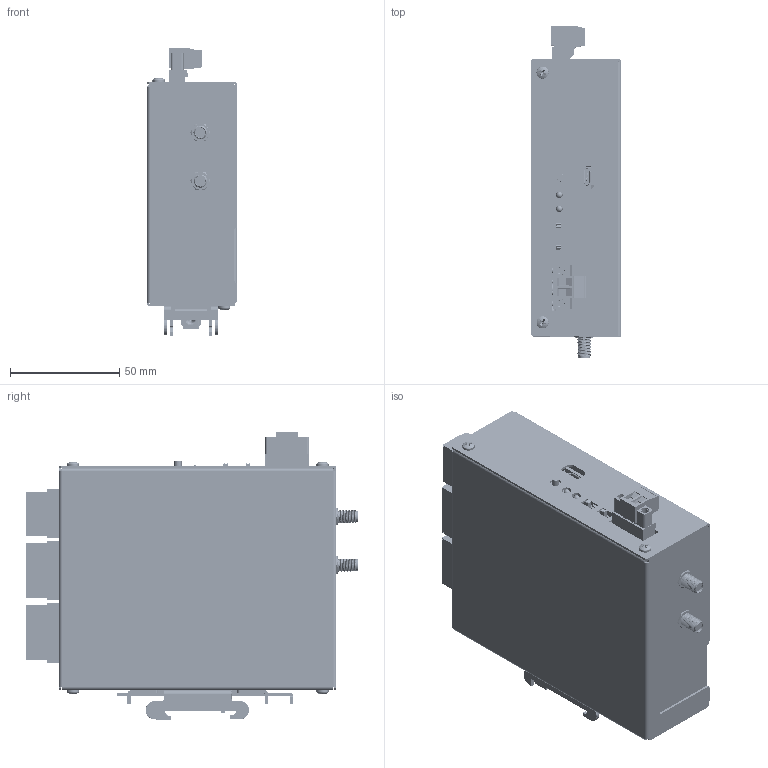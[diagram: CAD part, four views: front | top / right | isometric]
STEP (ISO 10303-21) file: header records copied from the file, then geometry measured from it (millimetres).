
FILE_DESCRIPTION (( 'STEP AP214' ), '1' );
FILE_NAME ('965-0045-01.STEP', '2022-04-29T19:35:41', ( '' ), ( '' ), 'SwSTEP 2.0', 'SolidWorks 2022', '' );
FILE_SCHEMA (( 'AUTOMOTIVE_DESIGN' ));
Length unit declared in the file: inch
Products named in the file (16): dinm23; 515-0164-01 Sensor to Cloud; 110-0112-01; 515-0174-01 DIN Mount for Ranger PCB; CR-PHMS 0.112-40x0.25x0.25-N_CR-PHMS 0.112-40x0.25x0.25-N; 395300004.stp; CLS-440-0-PennEngineering-3D-11-23-2020; 110-0112-01B; 110-0113-03A; 110-0113-03B; 395300005.stp; 965-0045-01; board stack; pxc_1777989_08_MSTB-2-5-2-STF-5-08_3D; 98k4829_1-1478966-0; BSOS-440-10-PennEngineering-3D-11-23-2020
Assembly tree (30 placements, depth 3):
  965-0045-01
    110-0112-01B
      110-0112-01
      BSOS-440-10-PennEngineering-3D-11-23-2020  x4
      CLS-440-0-PennEngineering-3D-11-23-2020  x2
    110-0113-03B
      110-0113-03A
      CLS-440-0-PennEngineering-3D-11-23-2020  x2
    dinm23
    CR-PHMS 0.112-40x0.25x0.25-N_CR-PHMS 0.112-40x0.25x0.25-N  x8
    98k4829_1-1478966-0  x2
    board stack
      515-0164-01 Sensor to Cloud
      515-0174-01 DIN Mount for Ranger PCB
    pxc_1777989_08_MSTB-2-5-2-STF-5-08_3D
    395300004.stp
    395300005.stp  x2
Bounding box: 41.27 x 151.96 x 131.83 mm (x, y, z)
Volume: 104748.3 mm3; surface area: 165883.1 mm2
Topology: 105 solids, 105 shells, 8697 faces, 22542 edges, 14356 vertices
Faces by surface type: plane 5625, cylinder 2361, bspline 309, cone 248, sphere 78, torus 76
Entity records: 356907 total; most frequent: CARTESIAN_POINT 73837, ORIENTED_EDGE 40968, DIRECTION 37143, EDGE_CURVE 20484, LINE 14243, VECTOR 14243, VERTEX_POINT 13110, AXIS2_PLACEMENT_3D 11450
